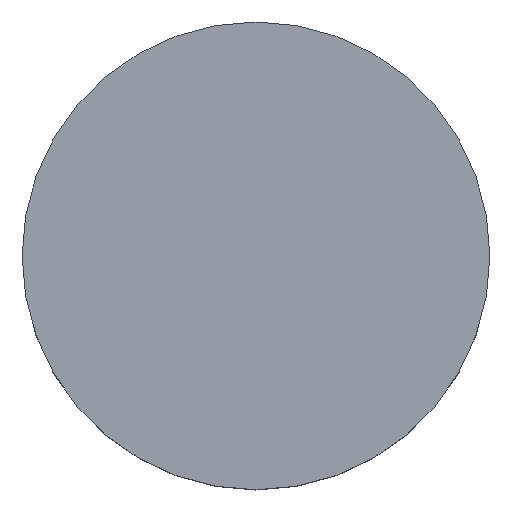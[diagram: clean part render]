
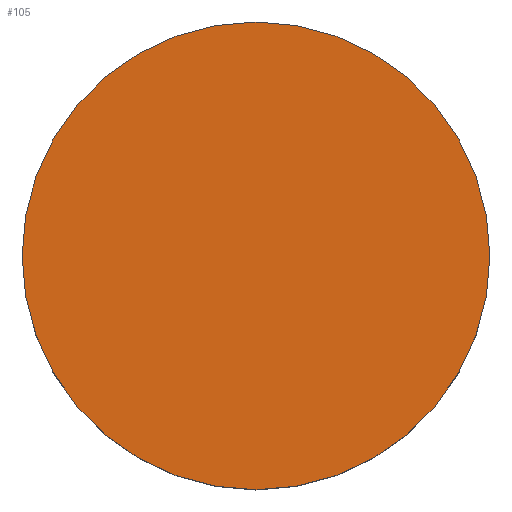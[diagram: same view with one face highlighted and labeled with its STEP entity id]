
A CAD part, top view. The second image highlights one B-rep face of the part: STEP entity #105.
In plain terms, the highlighted planar face has unit normal (0, 0, 1).
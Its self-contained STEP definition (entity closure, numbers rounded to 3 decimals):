
#21 = EDGE_CURVE('',#22,#22,#24,.T.);
#22 = VERTEX_POINT('',#23);
#23 = CARTESIAN_POINT('',(35.,0.,47.));
#24 = SURFACE_CURVE('',#25,(#30,#42),.PCURVE_S1.);
#25 = CIRCLE('',#26,5.);
#26 = AXIS2_PLACEMENT_3D('',#27,#28,#29);
#27 = CARTESIAN_POINT('',(30.,0.,47.));
#28 = DIRECTION('',(0.,0.,1.));
#29 = DIRECTION('',(1.,0.,-0.));
#30 = PCURVE('',#31,#36);
#31 = CYLINDRICAL_SURFACE('',#32,5.);
#32 = AXIS2_PLACEMENT_3D('',#33,#34,#35);
#33 = CARTESIAN_POINT('',(30.,0.,44.));
#34 = DIRECTION('',(0.,0.,1.));
#35 = DIRECTION('',(1.,0.,-0.));
#36 = DEFINITIONAL_REPRESENTATION('',(#37),#41);
#37 = LINE('',#38,#39);
#38 = CARTESIAN_POINT('',(0.,3.));
#39 = VECTOR('',#40,1.);
#40 = DIRECTION('',(1.,0.));
#41 = ( GEOMETRIC_REPRESENTATION_CONTEXT(2) 
PARAMETRIC_REPRESENTATION_CONTEXT() REPRESENTATION_CONTEXT('2D SPACE',''
  ) );
#42 = PCURVE('',#43,#48);
#43 = PLANE('',#44);
#44 = AXIS2_PLACEMENT_3D('',#45,#46,#47);
#45 = CARTESIAN_POINT('',(30.,0.,47.));
#46 = DIRECTION('',(0.,0.,1.));
#47 = DIRECTION('',(1.,0.,-0.));
#48 = DEFINITIONAL_REPRESENTATION('',(#49),#53);
#49 = CIRCLE('',#50,5.);
#50 = AXIS2_PLACEMENT_2D('',#51,#52);
#51 = CARTESIAN_POINT('',(0.,0.));
#52 = DIRECTION('',(1.,0.));
#53 = ( GEOMETRIC_REPRESENTATION_CONTEXT(2) 
PARAMETRIC_REPRESENTATION_CONTEXT() REPRESENTATION_CONTEXT('2D SPACE',''
  ) );
#105 = ADVANCED_FACE('',(#106),#43,.T.);
#106 = FACE_BOUND('',#107,.T.);
#107 = EDGE_LOOP('',(#108));
#108 = ORIENTED_EDGE('',*,*,#21,.T.);
